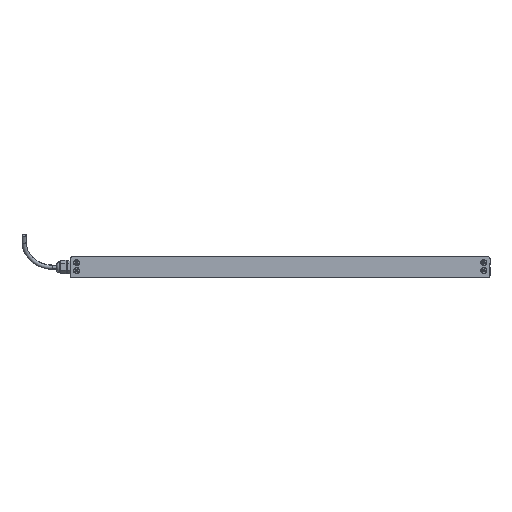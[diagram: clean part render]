
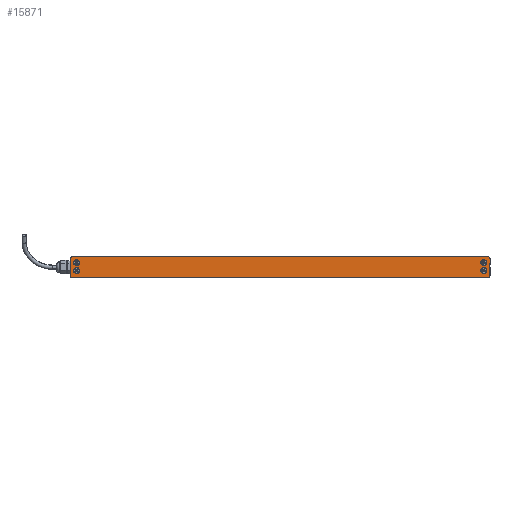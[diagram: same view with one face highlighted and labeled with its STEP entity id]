
A CAD part, left-side view. The second image highlights one B-rep face of the part: STEP entity #15871.
In plain terms, the highlighted planar face has unit normal (-1, 0, 0) as drawn and (0, 0, -1) by its records, which use the part's own axes.
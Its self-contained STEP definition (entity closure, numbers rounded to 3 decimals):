
#44 = DIRECTION ( 'NONE',  ( 0., 0., -1. ) ) ;
#259 = DIRECTION ( 'NONE',  ( 0., 0., -1. ) ) ;
#625 = AXIS2_PLACEMENT_3D ( 'NONE', #9533, #9610, #14578 ) ;
#657 = CIRCLE ( 'NONE', #1160, 5.6 ) ;
#815 = EDGE_CURVE ( 'NONE', #16091, #3401, #8019, .T. ) ;
#823 = VERTEX_POINT ( 'NONE', #14737 ) ;
#877 = AXIS2_PLACEMENT_3D ( 'NONE', #12839, #259, #11432 ) ;
#1160 = AXIS2_PLACEMENT_3D ( 'NONE', #5015, #15004, #8779 ) ;
#1207 = CARTESIAN_POINT ( 'NONE',  ( -393., 16., 0. ) ) ;
#1254 = ORIENTED_EDGE ( 'NONE', *, *, #8703, .F. ) ;
#1324 = VERTEX_POINT ( 'NONE', #12800 ) ;
#1375 = VERTEX_POINT ( 'NONE', #6859 ) ;
#1528 = ORIENTED_EDGE ( 'NONE', *, *, #7604, .F. ) ;
#1540 = CARTESIAN_POINT ( 'NONE',  ( 389., -16., 0. ) ) ;
#1665 = VERTEX_POINT ( 'NONE', #10821 ) ;
#1735 = CARTESIAN_POINT ( 'NONE',  ( -381.3, 8.5, 0. ) ) ;
#1738 = ORIENTED_EDGE ( 'NONE', *, *, #15066, .F. ) ;
#1755 = CARTESIAN_POINT ( 'NONE',  ( 389., -20., 0. ) ) ;
#1993 = ORIENTED_EDGE ( 'NONE', *, *, #10168, .F. ) ;
#2079 = ORIENTED_EDGE ( 'NONE', *, *, #5074, .F. ) ;
#2205 = ORIENTED_EDGE ( 'NONE', *, *, #5312, .F. ) ;
#2265 = CARTESIAN_POINT ( 'NONE',  ( -389., -20., 0. ) ) ;
#2613 = DIRECTION ( 'NONE',  ( -1., 0., 0. ) ) ;
#2722 = EDGE_LOOP ( 'NONE', ( #1254, #9073 ) ) ;
#2943 = VECTOR ( 'NONE', #10471, 1000. ) ;
#2945 = VECTOR ( 'NONE', #9603, 1000. ) ;
#3111 = EDGE_CURVE ( 'NONE', #8048, #4079, #15211, .T. ) ;
#3243 = DIRECTION ( 'NONE',  ( -1., 0., 0. ) ) ;
#3327 = CIRCLE ( 'NONE', #13100, 4. ) ;
#3384 = DIRECTION ( 'NONE',  ( 0., 0., 1. ) ) ;
#3401 = VERTEX_POINT ( 'NONE', #16238 ) ;
#3593 = AXIS2_PLACEMENT_3D ( 'NONE', #1540, #6782, #13141 ) ;
#3669 = EDGE_LOOP ( 'NONE', ( #13419, #2205, #1738, #2079, #9273, #1993, #9984, #7399 ) ) ;
#3797 = AXIS2_PLACEMENT_3D ( 'NONE', #4867, #6339, #8972 ) ;
#3855 = ORIENTED_EDGE ( 'NONE', *, *, #6808, .F. ) ;
#3859 = ORIENTED_EDGE ( 'NONE', *, *, #13373, .F. ) ;
#4051 = CIRCLE ( 'NONE', #14340, 5.6 ) ;
#4079 = VERTEX_POINT ( 'NONE', #7798 ) ;
#4199 = CARTESIAN_POINT ( 'NONE',  ( -386.9, -6.3, 0. ) ) ;
#4515 = VERTEX_POINT ( 'NONE', #8501 ) ;
#4573 = CARTESIAN_POINT ( 'NONE',  ( -393., -16., 0. ) ) ;
#4774 = VERTEX_POINT ( 'NONE', #2265 ) ;
#4804 = ORIENTED_EDGE ( 'NONE', *, *, #13004, .F. ) ;
#4867 = CARTESIAN_POINT ( 'NONE',  ( 381.3, 8.5, 0. ) ) ;
#5015 = CARTESIAN_POINT ( 'NONE',  ( -381.3, -6.3, 0. ) ) ;
#5074 = EDGE_CURVE ( 'NONE', #4774, #6051, #15423, .T. ) ;
#5078 = CARTESIAN_POINT ( 'NONE',  ( 389., 16., 0. ) ) ;
#5171 = FACE_BOUND ( 'NONE', #10172, .T. ) ;
#5312 = EDGE_CURVE ( 'NONE', #823, #4515, #10793, .T. ) ;
#5497 = EDGE_LOOP ( 'NONE', ( #1528, #8633 ) ) ;
#5820 = LINE ( 'NONE', #4573, #2945 ) ;
#6051 = VERTEX_POINT ( 'NONE', #1755 ) ;
#6339 = DIRECTION ( 'NONE',  ( 0., 0., -1. ) ) ;
#6569 = FACE_OUTER_BOUND ( 'NONE', #3669, .T. ) ;
#6782 = DIRECTION ( 'NONE',  ( 0., 0., 1. ) ) ;
#6808 = EDGE_CURVE ( 'NONE', #15999, #13274, #4051, .T. ) ;
#6859 = CARTESIAN_POINT ( 'NONE',  ( -389., 20., 0. ) ) ;
#6903 = CARTESIAN_POINT ( 'NONE',  ( -389., 20., 0. ) ) ;
#7109 = DIRECTION ( 'NONE',  ( -1., 0., 0. ) ) ;
#7272 = AXIS2_PLACEMENT_3D ( 'NONE', #7961, #11709, #7881 ) ;
#7399 = ORIENTED_EDGE ( 'NONE', *, *, #8879, .F. ) ;
#7507 = AXIS2_PLACEMENT_3D ( 'NONE', #12379, #3384, #16180 ) ;
#7604 = EDGE_CURVE ( 'NONE', #4079, #8048, #11752, .T. ) ;
#7738 = CIRCLE ( 'NONE', #877, 5.6 ) ;
#7798 = CARTESIAN_POINT ( 'NONE',  ( 375.7, 8.5, 0. ) ) ;
#7881 = DIRECTION ( 'NONE',  ( -1., 0., 0. ) ) ;
#7961 = CARTESIAN_POINT ( 'NONE',  ( -389., -16., 0. ) ) ;
#8019 = CIRCLE ( 'NONE', #625, 5.6 ) ;
#8048 = VERTEX_POINT ( 'NONE', #12394 ) ;
#8055 = ORIENTED_EDGE ( 'NONE', *, *, #815, .F. ) ;
#8168 = VERTEX_POINT ( 'NONE', #9173 ) ;
#8384 = EDGE_CURVE ( 'NONE', #1375, #12201, #14657, .T. ) ;
#8439 = CARTESIAN_POINT ( 'NONE',  ( -375.7, 8.5, 0. ) ) ;
#8501 = CARTESIAN_POINT ( 'NONE',  ( 393., 16., 0. ) ) ;
#8633 = ORIENTED_EDGE ( 'NONE', *, *, #3111, .F. ) ;
#8703 = EDGE_CURVE ( 'NONE', #15526, #1324, #657, .T. ) ;
#8779 = DIRECTION ( 'NONE',  ( -1., 0., 0. ) ) ;
#8825 = EDGE_CURVE ( 'NONE', #1665, #4774, #14125, .T. ) ;
#8869 = FACE_BOUND ( 'NONE', #11205, .T. ) ;
#8879 = EDGE_CURVE ( 'NONE', #8168, #1375, #15522, .T. ) ;
#8972 = DIRECTION ( 'NONE',  ( -1., 0., 0. ) ) ;
#9073 = ORIENTED_EDGE ( 'NONE', *, *, #11064, .F. ) ;
#9173 = CARTESIAN_POINT ( 'NONE',  ( 389., 20., 0. ) ) ;
#9273 = ORIENTED_EDGE ( 'NONE', *, *, #8825, .F. ) ;
#9365 = EDGE_CURVE ( 'NONE', #4515, #8168, #3327, .T. ) ;
#9465 = CARTESIAN_POINT ( 'NONE',  ( 381.3, -6.3, 0. ) ) ;
#9476 = DIRECTION ( 'NONE',  ( -1., 0., 0. ) ) ;
#9533 = CARTESIAN_POINT ( 'NONE',  ( -381.3, 8.5, 0. ) ) ;
#9567 = DIRECTION ( 'NONE',  ( 0., 0., 1. ) ) ;
#9603 = DIRECTION ( 'NONE',  ( 0., -1., 0. ) ) ;
#9610 = DIRECTION ( 'NONE',  ( 0., 0., -1. ) ) ;
#9658 = VECTOR ( 'NONE', #9476, 1000. ) ;
#9984 = ORIENTED_EDGE ( 'NONE', *, *, #8384, .F. ) ;
#10156 = DIRECTION ( 'NONE',  ( -1., 0., 0. ) ) ;
#10168 = EDGE_CURVE ( 'NONE', #12201, #1665, #5820, .T. ) ;
#10172 = EDGE_LOOP ( 'NONE', ( #4804, #3855 ) ) ;
#10410 = DIRECTION ( 'NONE',  ( 0., 0., -1. ) ) ;
#10425 = CIRCLE ( 'NONE', #15725, 5.6 ) ;
#10471 = DIRECTION ( 'NONE',  ( 1., 0., 0. ) ) ;
#10793 = LINE ( 'NONE', #16060, #12461 ) ;
#10821 = CARTESIAN_POINT ( 'NONE',  ( -393., -16., 0. ) ) ;
#11000 = AXIS2_PLACEMENT_3D ( 'NONE', #11740, #44, #10156 ) ;
#11064 = EDGE_CURVE ( 'NONE', #1324, #15526, #7738, .T. ) ;
#11205 = EDGE_LOOP ( 'NONE', ( #3859, #8055 ) ) ;
#11432 = DIRECTION ( 'NONE',  ( -1., 0., 0. ) ) ;
#11439 = FACE_BOUND ( 'NONE', #5497, .T. ) ;
#11529 = DIRECTION ( 'NONE',  ( -1., 0., 0. ) ) ;
#11709 = DIRECTION ( 'NONE',  ( 0., 0., 1. ) ) ;
#11740 = CARTESIAN_POINT ( 'NONE',  ( 381.3, 8.5, 0. ) ) ;
#11752 = CIRCLE ( 'NONE', #3797, 5.6 ) ;
#12201 = VERTEX_POINT ( 'NONE', #1207 ) ;
#12379 = CARTESIAN_POINT ( 'NONE',  ( -389., 16., 0. ) ) ;
#12394 = CARTESIAN_POINT ( 'NONE',  ( 386.9, 8.5, 0. ) ) ;
#12461 = VECTOR ( 'NONE', #14734, 1000. ) ;
#12800 = CARTESIAN_POINT ( 'NONE',  ( -375.7, -6.3, 0. ) ) ;
#12839 = CARTESIAN_POINT ( 'NONE',  ( -381.3, -6.3, 0. ) ) ;
#12844 = FACE_BOUND ( 'NONE', #2722, .T. ) ;
#13004 = EDGE_CURVE ( 'NONE', #13274, #15999, #13555, .T. ) ;
#13100 = AXIS2_PLACEMENT_3D ( 'NONE', #15868, #9567, #7109 ) ;
#13114 = CARTESIAN_POINT ( 'NONE',  ( -389., -20., 0. ) ) ;
#13141 = DIRECTION ( 'NONE',  ( 1., 0., 0. ) ) ;
#13274 = VERTEX_POINT ( 'NONE', #15829 ) ;
#13334 = DIRECTION ( 'NONE',  ( 0., 0., -1. ) ) ;
#13373 = EDGE_CURVE ( 'NONE', #3401, #16091, #10425, .T. ) ;
#13419 = ORIENTED_EDGE ( 'NONE', *, *, #9365, .F. ) ;
#13555 = CIRCLE ( 'NONE', #13804, 5.6 ) ;
#13643 = CARTESIAN_POINT ( 'NONE',  ( 386.9, -6.3, 0. ) ) ;
#13804 = AXIS2_PLACEMENT_3D ( 'NONE', #16359, #10410, #2613 ) ;
#14125 = CIRCLE ( 'NONE', #7272, 4. ) ;
#14143 = CIRCLE ( 'NONE', #3593, 4. ) ;
#14340 = AXIS2_PLACEMENT_3D ( 'NONE', #9465, #13334, #15672 ) ;
#14570 = DIRECTION ( 'NONE',  ( 0., 0., -1. ) ) ;
#14578 = DIRECTION ( 'NONE',  ( -1., 0., 0. ) ) ;
#14657 = CIRCLE ( 'NONE', #7507, 4. ) ;
#14734 = DIRECTION ( 'NONE',  ( 0., 1., 0. ) ) ;
#14737 = CARTESIAN_POINT ( 'NONE',  ( 393., -16., 0. ) ) ;
#15004 = DIRECTION ( 'NONE',  ( 0., 0., -1. ) ) ;
#15066 = EDGE_CURVE ( 'NONE', #6051, #823, #14143, .T. ) ;
#15211 = CIRCLE ( 'NONE', #11000, 5.6 ) ;
#15324 = DIRECTION ( 'NONE',  ( 0., 0., -1. ) ) ;
#15423 = LINE ( 'NONE', #13114, #2943 ) ;
#15500 = AXIS2_PLACEMENT_3D ( 'NONE', #5078, #15324, #11529 ) ;
#15509 = PLANE ( 'NONE',  #15500 ) ;
#15522 = LINE ( 'NONE', #6903, #9658 ) ;
#15526 = VERTEX_POINT ( 'NONE', #4199 ) ;
#15672 = DIRECTION ( 'NONE',  ( -1., 0., 0. ) ) ;
#15725 = AXIS2_PLACEMENT_3D ( 'NONE', #1735, #14570, #3243 ) ;
#15829 = CARTESIAN_POINT ( 'NONE',  ( 375.7, -6.3, 0. ) ) ;
#15868 = CARTESIAN_POINT ( 'NONE',  ( 389., 16., 0. ) ) ;
#15871 = ADVANCED_FACE ( 'NONE', ( #11439, #5171, #8869, #12844, #6569 ), #15509, .T. ) ;
#15999 = VERTEX_POINT ( 'NONE', #13643 ) ;
#16060 = CARTESIAN_POINT ( 'NONE',  ( 393., -16., 0. ) ) ;
#16091 = VERTEX_POINT ( 'NONE', #8439 ) ;
#16180 = DIRECTION ( 'NONE',  ( -1., 0., 0. ) ) ;
#16238 = CARTESIAN_POINT ( 'NONE',  ( -386.9, 8.5, 0. ) ) ;
#16359 = CARTESIAN_POINT ( 'NONE',  ( 381.3, -6.3, 0. ) ) ;
